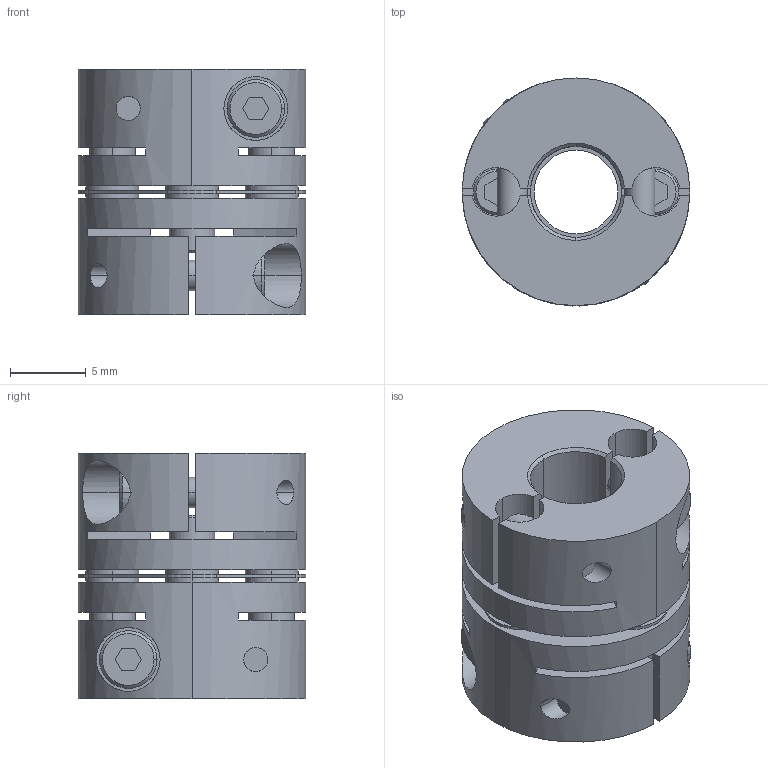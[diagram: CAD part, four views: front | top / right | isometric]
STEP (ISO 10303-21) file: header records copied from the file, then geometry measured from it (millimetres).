
FILE_DESCRIPTION((''),'2;1');
FILE_NAME('LAS-15C-6×6.stp','2016-04-21T12:39:11',(''),(''),'AutoCAD STEP 2000i','AutoCAD 2000i',', , ');
FILE_SCHEMA(('CONFIG_CONTROL_DESIGN'));
Length unit declared in the file: millimetre
Products named in the file (6): LAS-15C-6×6; 忣兜1; LA-1502-D06; LA-1502-D03-1; LA-1502-D03; LAS15-ITA
Assembly tree (6 placements, depth 2):
  LAS-15C-6×6
    忣兜1
    LA-1502-D06  x2
    LA-1502-D03-1
    LA-1502-D03
    LAS15-ITA
Bounding box: 15 x 15 x 16.2 mm (x, y, z)
Volume: 1996.9 mm3; surface area: 2645.5 mm2
Topology: 1 solids, 1 shells, 236 faces, 624 edges, 408 vertices
Faces by surface type: plane 112, cylinder 96, cone 28
Entity records: 8177 total; most frequent: CARTESIAN_POINT 1963, DIRECTION 1306, ORIENTED_EDGE 1248, EDGE_CURVE 624, AXIS2_PLACEMENT_3D 479, VERTEX_POINT 408, VECTOR 348, LINE 348
